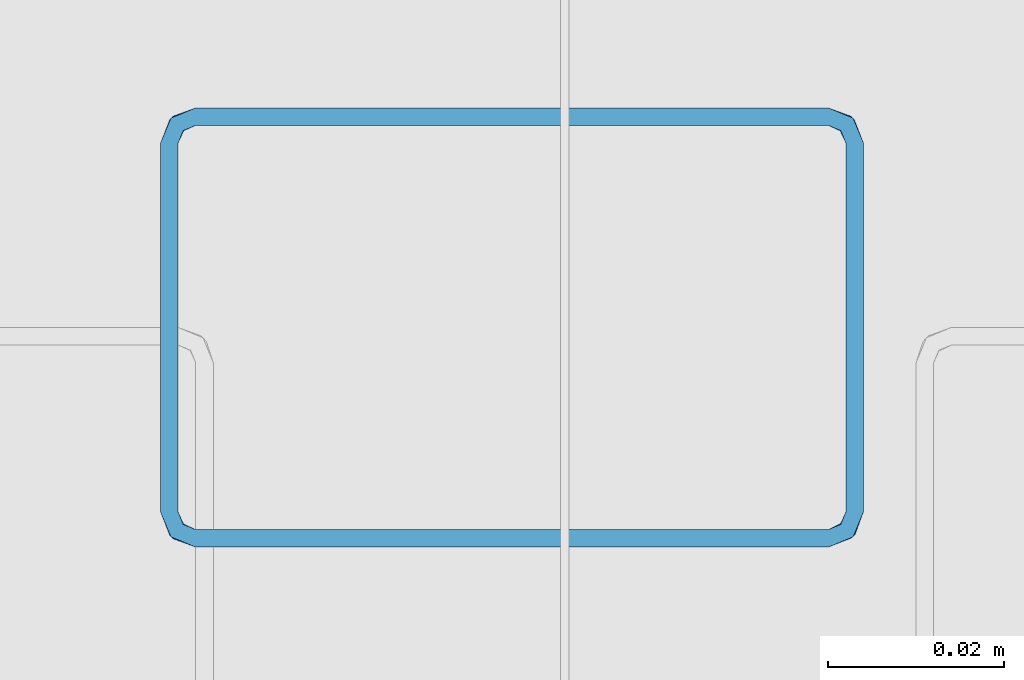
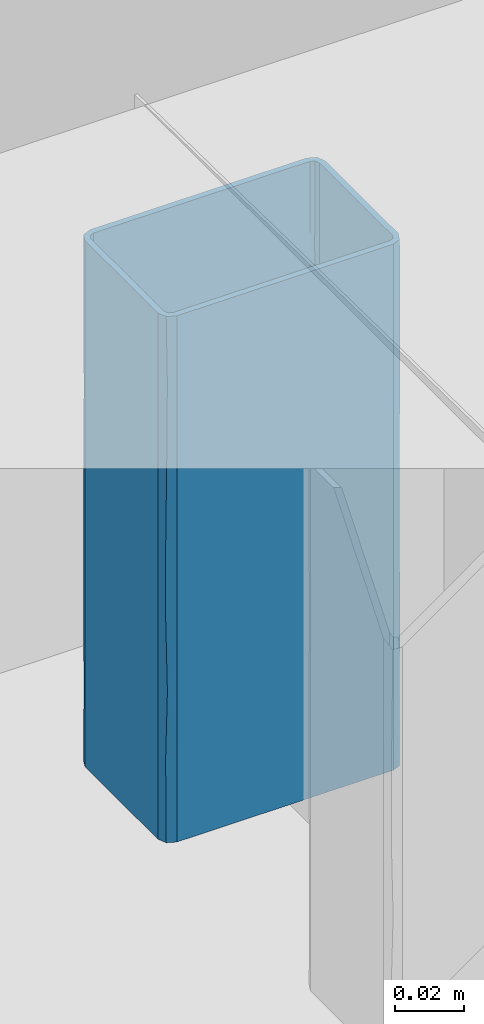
# One storey, part 154 of 186: 1 beam.
"""IFC4X3_ADD2 building model written with IfcOpenShell, lengths in millimetres."""

import ifcopenshell
import ifcopenshell.guid

model = None  # the IFC model being written
_history = None  # IfcOwnerHistory: only IFC2X3 demands one
_inside = {}  # id of a spatial element -> (the spatial element, [elements in it])
_under = {}  # id of a project, library or spatial element -> (it, [spatial elements below it])
_declared = {}  # id of a project -> (the project, [libraries it declares])
_typed = {}  # id of a type object -> (the type object, [elements of that type])
_made_of = {}  # id of a material, layer set ... -> (it, [elements and type objects made of it])


def new_model(schema):
    """Start an empty IFC model of exactly this schema.

    Asked for "IFC4X3", IfcOpenShell would pick the latest addendum, in which some entities
    have other attributes; the version numbers below select the first issue.
    IFC2X3 requires an IfcOwnerHistory on every rooted entity: one is made here for all.
    """
    global model, _history
    if schema == "IFC4X3":
        model = ifcopenshell.file(schema_version=(4, 3, 0, 0))
    else:
        model = ifcopenshell.file(schema=schema)
    _inside.clear()
    _under.clear()
    _declared.clear()
    _typed.clear()
    _made_of.clear()
    _history = None
    if model.schema == "IFC2X3":
        org = make("IfcOrganization", Name="unknown")
        user = make(
            "IfcPersonAndOrganization",
            ThePerson=make("IfcPerson", FamilyName="unknown"),
            TheOrganization=org,
        )
        app = make(
            "IfcApplication",
            ApplicationDeveloper=org,
            Version="unknown",
            ApplicationFullName="unknown",
            ApplicationIdentifier="unknown",
        )
        _history = make(
            "IfcOwnerHistory",
            OwningUser=user,
            OwningApplication=app,
            ChangeAction="ADDED",
            CreationDate=0,
        )
    return model


def make(cls, **values):
    """One entity of the class cls with the attributes given. An attribute that is None is left unset."""
    return model.create_entity(
        cls, **{name: value for name, value in values.items() if value is not None}
    )


def rooted(cls, **values):
    """An entity with a GlobalId (a new one), such as an element, a storey or a relation."""
    return make(cls, GlobalId=ifcopenshell.guid.new(), OwnerHistory=_history, **values)


def si_unit(unit_type, name, prefix=None):
    """IfcSIUnit, for example si_unit("LENGTHUNIT", "METRE", prefix="MILLI")."""
    return make("IfcSIUnit", UnitType=unit_type, Prefix=prefix, Name=name)


def assignment(units):
    """IfcUnitAssignment: the units of a project."""
    return None if units is None else make("IfcUnitAssignment", Units=units)


def point(xyz):
    """IfcCartesianPoint."""
    return None if xyz is None else make("IfcCartesianPoint", Coordinates=xyz)


def direction(xyz):
    """IfcDirection."""
    return None if xyz is None else make("IfcDirection", DirectionRatios=xyz)


def frame(location, z_axis=None, x_axis=None):
    """IfcAxis2Placement3D, a coordinate frame: its origin and axes. An axis left out is left unset."""
    return make(
        "IfcAxis2Placement3D",
        Location=point(location),
        Axis=direction(z_axis),
        RefDirection=direction(x_axis),
    )


def origin_with_axes():
    """The frame at (0, 0, 0) with the z axis (0, 0, 1) and the x axis (1, 0, 0) written out."""
    return frame((0.0, 0.0, 0.0), z_axis=(0.0, 0.0, 1.0), x_axis=(1.0, 0.0, 0.0))


def place(relative_to, where):
    """IfcLocalPlacement: puts the frame where relative to a parent placement (None: the world)."""
    return make(
        "IfcLocalPlacement", PlacementRelTo=relative_to, RelativePlacement=where
    )


def context(
    kind, dimensions, precision=None, world=None, true_north=None, identifier=None
):
    """IfcGeometricRepresentationContext, for example the 3D "Model" context."""
    return make(
        "IfcGeometricRepresentationContext",
        ContextIdentifier=identifier,
        ContextType=kind,
        CoordinateSpaceDimension=dimensions,
        Precision=precision,
        WorldCoordinateSystem=world,
        TrueNorth=true_north,
    )


def subcontext(parent, identifier, kind, view, scale=None):
    """IfcGeometricRepresentationSubContext, for example "Body" below "Model"."""
    return make(
        "IfcGeometricRepresentationSubContext",
        ContextIdentifier=identifier,
        ContextType=kind,
        ParentContext=parent,
        TargetScale=scale,
        TargetView=view,
    )


def project(units=None, contexts=None):
    """IfcProject with its units and contexts."""
    return rooted(
        "IfcProject",
        Name="project",
        RepresentationContexts=contexts,
        UnitsInContext=assignment(units),
    )


def spatial(cls, under=None, at=None, **own):
    """A site, building, storey or space (cls), placed at a placement, below another one or the project."""
    s = rooted(cls, ObjectPlacement=at, **own)
    if under is not None:
        _under.setdefault(under.id(), (under, []))[1].append(s)
    return s


def point_list(points):
    """IfcCartesianPointList2D or 3D."""
    cls = (
        "IfcCartesianPointList2D" if len(points[0]) == 2 else "IfcCartesianPointList3D"
    )
    return make(cls, CoordList=points)


def polygons(points, faces, closed=None, point_numbers=None):
    """IfcPolygonalFaceSet: a face is its outer loop, then its inner loops; points numbered from 1."""
    made = []
    for loops in faces:
        if len(loops) == 1:
            made.append(make("IfcIndexedPolygonalFace", CoordIndex=loops[0]))
        else:
            made.append(
                make(
                    "IfcIndexedPolygonalFaceWithVoids",
                    CoordIndex=loops[0],
                    InnerCoordIndices=loops[1:],
                )
            )
    return make(
        "IfcPolygonalFaceSet",
        Coordinates=point_list(points),
        Closed=closed,
        Faces=made,
        PnIndex=point_numbers,
    )


def shape(context_of_items, identifier, shape_type, items):
    """IfcShapeRepresentation: the items that make up one representation, for example the "Body"."""
    return make(
        "IfcShapeRepresentation",
        ContextOfItems=context_of_items,
        RepresentationIdentifier=identifier,
        RepresentationType=shape_type,
        Items=items,
    )


def made_of(thing, what):
    """Note that an element or type object is made of a material, layer set ...; save() writes the relation."""
    if what is not None:
        _made_of.setdefault(what.id(), (what, []))[1].append(thing)
    return thing


def element(
    cls,
    number,
    at=None,
    inside=None,
    cuts=None,
    type_object=None,
    material=None,
    context=None,
    identifier="Body",
    shape_type=None,
    held_by="IfcProductDefinitionShape",
    body=None,
    shapes=None,
    **own,
):
    """One element of the class cls, such as IfcWall. Its Tag is "e" and its number.

    at: its placement. inside: the storey or other place that contains it. cuts: it is an
    opening in that element (IfcRelVoidsElement). A single representation is given by context,
    identifier, shape_type and body (its items); several are given by shapes. held_by: the class
    of the entity that holds the representations. save() writes the other relations.
    """
    e = rooted(cls, Tag="e%d" % number, ObjectPlacement=at, **own)
    if body is not None:
        shapes = [shape(context, identifier, shape_type, body)]
    if shapes is not None:
        e.Representation = make(held_by, Representations=shapes)
    if inside is not None:
        _inside.setdefault(inside.id(), (inside, []))[1].append(e)
    if cuts is not None:
        rooted(
            "IfcRelVoidsElement", RelatingBuildingElement=cuts, RelatedOpeningElement=e
        )
    if type_object is not None:
        _typed.setdefault(type_object.id(), (type_object, []))[1].append(e)
    return made_of(e, material)


def aggregate(whole, parts):
    """IfcRelAggregates: a whole, such as a stair, and the parts it consists of."""
    return rooted("IfcRelAggregates", RelatingObject=whole, RelatedObjects=parts)


def save(model, path):
    """Write the relations noted so far, then the file.

    IfcRelAggregates (storeys below a building ...), IfcRelContainedInSpatialStructure (elements
    in a storey), IfcRelDefinesByType, IfcRelAssociatesMaterial and IfcRelDeclares: one each for
    every whole, place, type object, material and project.
    """
    for whole, parts in _under.values():
        aggregate(whole, parts)
    for where, things in _inside.values():
        rooted(
            "IfcRelContainedInSpatialStructure",
            RelatedElements=things,
            RelatingStructure=where,
        )
    for kind, things in _typed.values():
        rooted("IfcRelDefinesByType", RelatedObjects=things, RelatingType=kind)
    for what, things in _made_of.values():
        rooted("IfcRelAssociatesMaterial", RelatedObjects=things, RelatingMaterial=what)
    for by, libraries in _declared.values():
        rooted("IfcRelDeclares", RelatingContext=by, RelatedDefinitions=libraries)
    model.write(path)


model = new_model("IFC4X3_ADD2")

# Units and contexts
model_context = context("Model", 3, precision=1e-05, world=origin_with_axes(), true_north=direction((0.0, 1.0)))
body_context = subcontext(model_context, "Body", "Model", "MODEL_VIEW")
ifc_project = project(units=[si_unit("LENGTHUNIT", "METRE", prefix="MILLI"), si_unit("AREAUNIT", "SQUARE_METRE"), si_unit("VOLUMEUNIT", "CUBIC_METRE"), si_unit("PLANEANGLEUNIT", "RADIAN"), si_unit("TIMEUNIT", "SECOND"), si_unit("MASSUNIT", "GRAM")], contexts=[model_context])

# Site, building, storey
site_placement = place(None, origin_with_axes())
site = spatial("IfcSite", under=ifc_project, at=site_placement, Name="Site", CompositionType="ELEMENT")
building_placement = place(site_placement, origin_with_axes())
building = spatial("IfcBuilding", under=site, at=building_placement, Name="IFC Building Story")
storey_placement = place(building_placement, frame((0.0, 0.0, 4370.0), z_axis=(0.0, 0.0, 1.0), x_axis=(1.0, 0.0, 0.0)))
storey = spatial("IfcBuildingStorey", under=building, at=storey_placement, Name="ETAGE 10 (1)", Elevation=4370.0)

# Beam
beam_placement = place(storey_placement, frame((0.0, 0.0, -4370.0), z_axis=(0.0, 0.0, 1.0), x_axis=(1.0, 0.0, 0.0)))
element("IfcBeam", 1, at=beam_placement, inside=storey, Name="PS9", ObjectType="K50*80*2", context=body_context, shape_type="Tessellation", body=[
    polygons([(48394.18969887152, -106.000610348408, 7329.99958190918), (48396.18969887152, -106.000610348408, 7329.99958190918), (48393.60391243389, -107.4148239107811, 7329.99958190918), (48394.18969887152, -64.000610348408, 7329.99958190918), (48396.18969887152, -64.000610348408, 7329.99958190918), (48393.60391243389, -62.5863967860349, 7329.99958190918), (48395.01812599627, -61.1721832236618, 7329.99958190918), (48392.18969887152, -60.000610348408, 7329.99958190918), (48392.18969887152, -62.000610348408, 7329.99958190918), (48320.18969887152, -60.000610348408, 7329.99958190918), (48320.18969887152, -62.000610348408, 7329.99958190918), (48318.77548530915, -62.5863967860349, 7329.99958190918), (48317.36127174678, -61.1721832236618, 7329.99958190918), (48316.18969887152, -64.000610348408, 7329.99958190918), (48318.18969887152, -64.000610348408, 7329.99958190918), (48316.18969887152, -106.000610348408, 7329.99958190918), (48318.18969887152, -106.000610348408, 7329.99958190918), (48318.77548530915, -107.4148239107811, 7329.99958190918), (48317.36127174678, -108.8290374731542, 7329.99958190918), (48320.18969887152, -110.000610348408, 7329.99958190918), (48320.18969887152, -108.000610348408, 7329.99958190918), (48392.18969887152, -108.000610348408, 7329.99958190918), (48392.18969887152, -110.000610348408, 7329.99958190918), (48395.01812599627, -108.8290374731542, 7329.99958190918), (48318.18969887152, -106.000610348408, 7514.999581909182), (48316.18969887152, -106.000610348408, 7514.999581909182), (48318.77548530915, -107.4148239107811, 7514.999581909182), (48318.18969887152, -64.000610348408, 7514.999581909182), (48316.18969887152, -64.000610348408, 7514.999581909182), (48318.77548530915, -62.5863967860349, 7514.999581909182), (48317.36127174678, -61.1721832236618, 7514.999581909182), (48320.18969887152, -60.000610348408, 7514.999581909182), (48320.18969887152, -62.000610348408, 7514.999581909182), (48392.18969887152, -60.000610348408, 7514.999581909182), (48392.18969887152, -62.000610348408, 7514.999581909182), (48393.60391243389, -62.5863967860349, 7514.999581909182), (48395.01812599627, -61.1721832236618, 7514.999581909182), (48396.18969887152, -64.000610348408, 7514.999581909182), (48394.18969887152, -64.000610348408, 7514.999581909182), (48396.18969887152, -106.000610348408, 7514.999581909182), (48394.18969887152, -106.000610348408, 7514.999581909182), (48393.60391243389, -107.4148239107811, 7514.999581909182), (48395.01812599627, -108.8290374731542, 7514.999581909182), (48392.18969887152, -110.000610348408, 7514.999581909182), (48392.18969887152, -108.000610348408, 7514.999581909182), (48320.18969887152, -108.000610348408, 7514.999581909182), (48320.18969887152, -110.000610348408, 7514.999581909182), (48317.36127174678, -108.8290374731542, 7514.999581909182), (48392.18969887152, -110.000610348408, 7347.458104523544), (48392.18969887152, -110.000610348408, 7376.249581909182), (48392.18969887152, -110.000610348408, 7399.374583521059), (48392.18969887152, -110.000610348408, 7422.499581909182), (48392.18969887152, -110.000610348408, 7445.624580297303), (48392.18969887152, -110.000610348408, 7468.749581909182), (48392.18969887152, -110.000610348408, 7497.541059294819), (48320.18969887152, -110.000610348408, 7480.082535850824), (48320.18969887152, -110.000610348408, 7457.416627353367), (48320.18969887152, -110.000610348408, 7428.625150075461), (48320.18969887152, -110.000610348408, 7399.833672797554), (48320.18969887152, -110.000610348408, 7364.91662796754), (48317.50755934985, -108.9681223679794, 7468.749579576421), (48316.18969887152, -106.000610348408, 7497.54105965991), (48316.18969887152, -106.000610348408, 7347.458104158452), (48317.24136892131, -108.7038214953, 7359.346476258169), (48317.24793747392, -108.7109682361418, 7434.06207934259), (48316.18969887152, -106.000610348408, 7445.624580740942), (48317.24784257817, -108.7108652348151, 7408.867571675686), (48317.61035341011, -109.0578929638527, 7491.927046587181), (48316.18969887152, -106.000610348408, 7468.749581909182), (48317.62087706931, -109.0667405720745, 7383.292348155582), (48316.18969887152, -106.000610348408, 7422.499581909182), (48316.18969887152, -106.000610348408, 7399.374583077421), (48316.18969887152, -106.000610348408, 7376.249581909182), (48316.18969887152, -64.000610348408, 7497.54105919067), (48316.18969887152, -64.000610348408, 7468.749581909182), (48316.18969887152, -64.000610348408, 7445.624581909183), (48316.18969887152, -64.000610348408, 7422.499581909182), (48316.18969887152, -64.000610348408, 7399.374581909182), (48316.18969887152, -64.000610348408, 7376.24958190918), (48316.18969887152, -64.000610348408, 7347.458104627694), (48317.24136865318, -61.2973994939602, 7485.652677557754), (48317.61035335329, -60.9433277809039, 7353.072114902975), (48317.50755934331, -61.03309833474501, 7376.249580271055), (48320.18969887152, -60.000610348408, 7364.916627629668), (48320.18969887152, -60.000610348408, 7387.582536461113), (48317.24793749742, -61.29025243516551, 7410.937079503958), (48320.18969887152, -60.000610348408, 7480.082536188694), (48317.62087693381, -60.93448023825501, 7461.706806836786), (48317.24784267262, -61.2903553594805, 7436.131585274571), (48320.18969887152, -60.000610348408, 7445.165491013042), (48320.18969887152, -60.000610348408, 7416.374013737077), (48392.18969887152, -60.000610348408, 7480.082536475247), (48392.18969887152, -60.000610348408, 7451.291059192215), (48392.18969887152, -60.000610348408, 7422.499581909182), (48392.18969887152, -60.000610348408, 7399.374582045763), (48392.18969887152, -60.000610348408, 7376.249582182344), (48392.18969887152, -60.000610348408, 7347.458104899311), (48396.18969887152, -64.000610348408, 7364.916627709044), (48396.18969887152, -64.000610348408, 7399.833673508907), (48395.03013402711, -61.1842424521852, 7387.812080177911), (48396.18969887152, -64.000610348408, 7480.082536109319), (48395.01812587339, -61.17218310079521, 7468.749577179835), (48394.77783707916, -60.9507676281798, 7491.874578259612), (48394.84158208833, -61.0060293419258, 7363.777071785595), (48395.15720569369, -61.3184650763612, 7443.870651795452), (48395.08196542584, -61.23749721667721, 7420.819318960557), (48396.18969887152, -64.000610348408, 7457.41662691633), (48396.18969887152, -64.000610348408, 7428.62515021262), (48396.18969887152, -106.000610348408, 7480.082535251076), (48396.18969887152, -106.000610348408, 7457.416626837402), (48396.18969887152, -106.000610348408, 7428.625149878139), (48396.18969887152, -106.000610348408, 7399.833672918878), (48396.18969887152, -106.000610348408, 7364.916627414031), (48395.15721092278, -108.6827498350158, 7468.749579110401), (48394.89291002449, -108.9489402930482, 7359.346476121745), (48394.90005676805, -108.9423717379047, 7434.062078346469), (48394.8999537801, -108.9424666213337, 7408.867571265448), (48395.24698148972, -108.5799558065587, 7491.927046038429), (48395.2558291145, -108.5694321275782, 7383.292347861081), (48393.54969718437, -107.4670361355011, 7406.329640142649), (48394.18969887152, -106.000610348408, 7404.069820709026), (48393.50452049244, -107.5076750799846, 7393.984068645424), (48393.76840573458, -107.2284884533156, 7444.932419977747), (48393.66697753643, -107.3488120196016, 7434.149878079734), (48392.18969887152, -108.000610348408, 7445.624581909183), (48393.54969717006, -107.4670361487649, 7474.139560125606), (48394.18969887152, -106.000610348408, 7482.659701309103), (48394.18969887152, -106.000610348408, 7471.879740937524), (48394.18969887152, -106.000610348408, 7461.099780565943), (48393.67660218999, -107.3381896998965, 7422.218561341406), (48392.18969887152, -108.000610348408, 7422.499581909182), (48392.18969887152, -108.000610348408, 7502.654542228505), (48393.60391240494, -107.4148239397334, 7498.047100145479), (48392.18969887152, -108.000610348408, 7490.309502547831), (48393.59526935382, -107.4234144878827, 7486.231226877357), (48394.18969887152, -106.000610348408, 7502.654541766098), (48394.18969887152, -106.000610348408, 7342.344621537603), (48393.60391245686, -107.4148238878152, 7348.517141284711), (48392.18969887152, -108.000610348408, 7342.344621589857), (48394.18969887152, -106.000610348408, 7416.414860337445), (48394.18969887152, -106.000610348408, 7367.034701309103), (48393.6503323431, -107.3668277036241, 7360.862180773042), (48393.60391247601, -107.4148238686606, 7373.20722027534), (48393.66236061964, -107.3538536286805, 7455.709798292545), (48392.18969887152, -108.000610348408, 7468.749581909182), (48394.18969887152, -106.000610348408, 7379.379740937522), (48394.18969887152, -106.000610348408, 7354.689661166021), (48392.18969887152, -108.000610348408, 7367.034700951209), (48392.18969887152, -108.000610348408, 7354.689661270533), (48394.18969887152, -106.000610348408, 7493.439661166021), (48392.18969887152, -108.000610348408, 7479.529542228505), (48394.18969887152, -106.000610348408, 7439.539860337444), (48394.18969887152, -106.000610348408, 7428.759899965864), (48394.18969887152, -106.000610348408, 7450.319820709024), (48392.18969887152, -108.000610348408, 7434.062081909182), (48392.18969887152, -108.000610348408, 7411.719621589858), (48392.18969887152, -108.000610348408, 7457.18708190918), (48392.18969887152, -108.000610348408, 7400.939661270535), (48394.18969887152, -106.000610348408, 7391.724780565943), (48393.74525367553, -107.2576900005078, 7383.68828868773), (48392.18969887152, -108.000610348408, 7390.15970095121), (48392.18969887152, -108.000610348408, 7379.379740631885), (48394.18969887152, -64.000610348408, 7502.654542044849), (48394.18969887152, -64.000610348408, 7490.30950276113), (48394.18969887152, -64.000610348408, 7479.529542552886), (48394.18969887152, -64.000610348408, 7468.749582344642), (48394.18969887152, -64.000610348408, 7457.187082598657), (48394.18969887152, -64.000610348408, 7445.624582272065), (48394.18969887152, -64.000610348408, 7434.062081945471), (48394.18969887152, -64.000610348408, 7422.499582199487), (48394.18969887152, -64.000610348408, 7410.937082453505), (48394.18969887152, -64.000610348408, 7399.374582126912), (48394.18969887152, -64.000610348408, 7387.812081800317), (48394.18969887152, -64.000610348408, 7376.249582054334), (48394.18969887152, -64.000610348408, 7365.46962184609), (48394.18969887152, -64.000610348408, 7354.689661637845), (48394.18969887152, -64.000610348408, 7342.344621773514), (48393.67373824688, -62.659854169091, 7439.843330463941), (48393.71384302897, -62.7056259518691, 7428.281218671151), (48393.50445206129, -62.493485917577, 7401.638518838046), (48393.67573843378, -62.6620714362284, 7416.718330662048), (48392.18969887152, -62.000610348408, 7405.45930305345), (48392.18969887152, -62.000610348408, 7342.344621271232), (48393.60391242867, -62.5863967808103, 7346.952061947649), (48392.18969887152, -62.000610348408, 7351.559502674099), (48393.65612468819, -62.6406120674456, 7360.079640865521), (48393.67827915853, -62.6648975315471, 7475.223688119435), (48393.66134988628, -62.6462679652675, 7462.968330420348), (48392.18969887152, -62.000610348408, 7428.584304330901), (48393.64418170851, -62.6278468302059, 7371.747873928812), (48392.18969887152, -62.000610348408, 7362.339462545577), (48392.18969887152, -62.000610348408, 7502.65454254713), (48392.18969887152, -62.000610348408, 7465.619423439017), (48393.60391244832, -62.5863968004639, 7496.482021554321), (48392.18969887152, -62.000610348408, 7490.309502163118), (48392.18969887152, -62.000610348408, 7453.274383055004), (48393.71340190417, -62.7051069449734, 7451.408622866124), (48392.18969887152, -62.000610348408, 7440.929343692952), (48393.54294218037, -62.5279486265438, 7389.289362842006), (48392.18969887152, -62.000610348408, 7394.679343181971), (48392.18969887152, -62.000610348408, 7383.899383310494), (48392.18969887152, -62.000610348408, 7373.119422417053), (48392.18969887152, -62.000610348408, 7477.964462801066), (48393.45954831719, -62.455462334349, 7485.788710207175), (48392.18969887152, -62.000610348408, 7416.239263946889), (48320.18969887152, -62.000610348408, 7502.654541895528), (48320.18969887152, -62.000610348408, 7491.874581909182), (48320.18969887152, -62.000610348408, 7480.312081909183), (48320.18969887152, -62.000610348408, 7468.749581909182), (48320.18969887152, -62.000610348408, 7457.18708190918), (48320.18969887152, -62.000610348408, 7445.624581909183), (48320.18969887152, -62.000610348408, 7434.062081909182), (48320.18969887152, -62.000610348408, 7422.499581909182), (48320.18969887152, -62.000610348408, 7410.937081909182), (48320.18969887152, -62.000610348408, 7399.374581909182), (48320.18969887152, -62.000610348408, 7387.812081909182), (48320.18969887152, -62.000610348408, 7376.249581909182), (48320.18969887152, -62.000610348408, 7365.469621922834), (48320.18969887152, -62.000610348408, 7354.689660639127), (48320.18969887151, -62.000610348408, 7342.344621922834), (48318.8489427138, -62.51657095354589, 7439.843330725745), (48318.89471449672, -62.4764661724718, 7428.281218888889), (48318.68257445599, -62.68585714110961, 7401.63851911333), (48318.85115997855, -62.5145707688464, 7416.718330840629), (48318.18969887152, -64.000610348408, 7405.459304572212), (48318.90350509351, -62.4690407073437, 7485.918857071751), (48318.18969887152, -64.000610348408, 7342.344622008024), (48318.7754853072, -62.5863967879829, 7346.952061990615), (48318.18969887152, -64.000610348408, 7351.559502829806), (48318.18969887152, -64.000610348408, 7502.654541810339), (48318.82970059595, -62.53418452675, 7360.079640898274), (48318.18969887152, -64.000610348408, 7465.619423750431), (48318.82438049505, -62.5391365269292, 7474.530830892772), (48318.18969887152, -64.000610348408, 7477.964463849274), (48318.70408041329, -62.6616040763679, 7459.446902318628), (48318.81693536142, -62.54612750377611, 7371.747873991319), (48318.18969887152, -64.000610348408, 7362.339462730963), (48318.18969887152, -64.000610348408, 7490.309502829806), (48318.77548532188, -62.5863967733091, 7497.264561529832), (48318.18969887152, -64.000610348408, 7428.584303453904), (48318.18969887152, -64.000610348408, 7453.274383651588), (48318.18969887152, -64.000610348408, 7440.929343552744), (48318.71703716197, -62.64736702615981, 7389.2893630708), (48318.18969887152, -64.000610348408, 7394.679343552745), (48318.18969887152, -64.000610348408, 7383.899383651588), (48318.18969887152, -64.000610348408, 7373.119423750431), (48318.18969887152, -64.000610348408, 7416.23926447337), (48318.18969887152, -106.0006103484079, 7502.654541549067), (48318.18969887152, -106.0006103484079, 7491.874580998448), (48318.18969887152, -106.0006103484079, 7480.312080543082), (48318.18969887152, -106.0006103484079, 7468.749581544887), (48318.18969887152, -106.0006103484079, 7457.187082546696), (48318.18969887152, -106.0006103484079, 7445.62458209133), (48318.18969887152, -106.0006103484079, 7434.062081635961), (48318.18969887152, -106.0006103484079, 7422.499581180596), (48318.18969887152, -106.0006103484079, 7410.937080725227), (48318.18969887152, -106.0006103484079, 7399.374581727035), (48318.18969887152, -106.0006103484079, 7387.812082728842), (48318.18969887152, -106.0006103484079, 7376.249582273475), (48318.18969887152, -106.0006103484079, 7365.469621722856), (48318.18969887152, -106.0006103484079, 7354.689661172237), (48318.18969887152, -106.0006103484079, 7342.344620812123), (48318.70565946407, -107.3413664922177, 7439.843330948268), (48318.66555468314, -107.295594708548, 7428.28121908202), (48318.87494565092, -107.5077347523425, 7401.638519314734), (48318.70365927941, -107.3391492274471, 7416.718331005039), (48320.18969887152, -108.000610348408, 7405.459303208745), (48318.65812922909, -107.2868041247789, 7485.918857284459), (48320.18969887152, -108.000610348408, 7342.344620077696), (48318.77548530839, -107.4148239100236, 7346.952062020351), (48320.18969887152, -108.000610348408, 7351.559503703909), (48320.18969887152, -108.000610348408, 7502.654541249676), (48318.72327304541, -107.3606086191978, 7360.079640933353), (48320.18969887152, -108.000610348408, 7465.619421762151), (48318.7282250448, -107.3659287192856, 7474.530831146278), (48320.18969887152, -108.000610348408, 7477.964462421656), (48318.85069258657, -107.4862287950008, 7459.446902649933), (48318.73521602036, -107.3733738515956, 7371.747874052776), (48320.18969887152, -108.000610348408, 7362.339462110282), (48320.18969887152, -108.000610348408, 7490.309503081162), (48318.77548529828, -107.4148238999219, 7497.264561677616), (48320.18969887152, -108.000610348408, 7428.584302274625), (48320.18969887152, -108.000610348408, 7453.274383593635), (48320.18969887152, -108.000610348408, 7440.929342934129), (48318.83645553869, -107.473272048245, 7389.289363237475), (48320.18969887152, -108.000610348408, 7394.679342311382), (48320.18969887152, -108.000610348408, 7383.89938390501), (48320.18969887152, -108.000610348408, 7373.119423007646), (48320.18969887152, -108.000610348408, 7416.239264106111)], [[[1, 2, 3]], [[2, 1, 4]], [[4, 5, 2]], [[6, 5, 4]], [[7, 5, 6]], [[6, 8, 7]], [[6, 9, 8]], [[8, 9, 10]], [[11, 10, 9]], [[11, 12, 10]], [[10, 12, 13]], [[14, 13, 12]], [[14, 12, 15]], [[14, 15, 16]], [[17, 16, 15]], [[18, 16, 17]], [[16, 18, 19]], [[18, 20, 19]], [[21, 20, 18]], [[20, 21, 22]], [[3, 23, 22]], [[22, 23, 20]], [[3, 2, 24]], [[23, 3, 24]], [[25, 26, 27]], [[26, 25, 28]], [[28, 29, 26]], [[30, 29, 28]], [[31, 29, 30]], [[30, 32, 31]], [[30, 33, 32]], [[32, 33, 34]], [[35, 34, 33]], [[35, 36, 34]], [[34, 36, 37]], [[38, 37, 36]], [[38, 36, 39]], [[38, 39, 40]], [[41, 40, 39]], [[42, 40, 41]], [[40, 42, 43]], [[42, 44, 43]], [[45, 44, 42]], [[44, 45, 46]], [[27, 47, 46]], [[46, 47, 44]], [[27, 26, 48]], [[47, 27, 48]], [[55, 44, 47]], [[47, 56, 54]], [[47, 54, 55]], [[56, 57, 53]], [[56, 53, 54]], [[57, 58, 52]], [[57, 52, 53]], [[58, 59, 51]], [[58, 51, 52]], [[59, 60, 50]], [[59, 50, 51]], [[60, 20, 49]], [[60, 49, 50]], [[20, 23, 49]], [[61, 57, 56]], [[48, 26, 62]], [[63, 16, 19]], [[19, 20, 64]], [[61, 65, 57]], [[66, 65, 61]], [[67, 59, 58]], [[61, 68, 69]], [[61, 56, 68]], [[20, 60, 64]], [[67, 70, 59]], [[47, 48, 68]], [[64, 60, 70]], [[68, 62, 69]], [[58, 65, 67]], [[65, 66, 71]], [[61, 69, 66]], [[65, 71, 67]], [[57, 65, 58]], [[70, 72, 73]], [[72, 70, 67]], [[64, 73, 63]], [[60, 59, 70]], [[47, 68, 56]], [[62, 68, 48]], [[67, 71, 72]], [[73, 64, 70]], [[19, 64, 63]], [[62, 26, 29]], [[62, 29, 74]], [[74, 75, 69]], [[74, 69, 62]], [[75, 76, 66]], [[75, 66, 69]], [[76, 77, 71]], [[76, 71, 66]], [[77, 78, 72]], [[77, 72, 71]], [[78, 79, 73]], [[78, 73, 72]], [[79, 80, 63]], [[79, 63, 73]], [[80, 14, 16]], [[80, 16, 63]], [[31, 32, 81]], [[82, 79, 83]], [[84, 83, 85]], [[82, 80, 79]], [[83, 86, 85]], [[13, 14, 80]], [[74, 29, 31]], [[78, 86, 83]], [[81, 32, 87]], [[87, 88, 81]], [[89, 90, 91]], [[89, 88, 90]], [[10, 13, 82]], [[83, 84, 82]], [[91, 86, 89]], [[86, 78, 77]], [[83, 79, 78]], [[86, 77, 89]], [[85, 86, 91]], [[88, 76, 75]], [[76, 88, 89]], [[81, 75, 74]], [[87, 90, 88]], [[10, 82, 84]], [[80, 82, 13]], [[89, 77, 76]], [[75, 81, 88]], [[31, 81, 74]], [[87, 32, 34]], [[87, 34, 92]], [[92, 93, 90]], [[92, 90, 87]], [[93, 94, 91]], [[93, 91, 90]], [[95, 96, 85]], [[85, 91, 94]], [[85, 94, 95]], [[96, 84, 85]], [[97, 8, 10]], [[97, 10, 84]], [[84, 96, 97]], [[98, 5, 7]], [[99, 98, 100]], [[101, 102, 103]], [[7, 97, 104]], [[37, 103, 34]], [[94, 105, 106]], [[93, 102, 105]], [[96, 100, 104]], [[105, 102, 107]], [[38, 101, 103]], [[100, 106, 99]], [[7, 8, 97]], [[101, 107, 102]], [[105, 94, 93]], [[103, 102, 92]], [[93, 92, 102]], [[107, 108, 105]], [[105, 108, 106]], [[34, 103, 92]], [[103, 37, 38]], [[108, 99, 106]], [[96, 95, 100]], [[100, 95, 106]], [[95, 94, 106]], [[104, 100, 98]], [[7, 104, 98]], [[97, 96, 104]], [[101, 38, 40]], [[101, 40, 109]], [[109, 110, 107]], [[109, 107, 101]], [[110, 111, 108]], [[110, 108, 107]], [[111, 112, 99]], [[111, 99, 108]], [[112, 113, 98]], [[112, 98, 99]], [[113, 2, 5]], [[113, 5, 98]], [[114, 110, 109]], [[43, 44, 55]], [[49, 23, 24]], [[24, 2, 115]], [[114, 116, 110]], [[53, 116, 114]], [[117, 112, 111]], [[114, 118, 54]], [[114, 109, 118]], [[2, 113, 115]], [[117, 119, 112]], [[40, 43, 118]], [[115, 113, 119]], [[118, 55, 54]], [[111, 116, 117]], [[116, 53, 52]], [[114, 54, 53]], [[116, 52, 117]], [[110, 116, 111]], [[119, 51, 50]], [[51, 119, 117]], [[115, 50, 49]], [[113, 112, 119]], [[40, 118, 109]], [[55, 118, 43]], [[117, 52, 51]], [[50, 115, 119]], [[24, 115, 49]], [[120, 121, 122]], [[123, 124, 125]], [[126, 127, 128, 129]], [[124, 130, 131]], [[132, 42, 133]], [[134, 133, 135]], [[42, 41, 136]], [[137, 1, 3]], [[138, 3, 139]], [[120, 130, 140]], [[141, 142, 143]], [[144, 145, 126]], [[141, 143, 146]], [[137, 138, 147]], [[148, 142, 149]], [[42, 136, 133]], [[150, 133, 136]], [[3, 22, 139]], [[132, 45, 42]], [[3, 138, 137]], [[133, 134, 132]], [[150, 127, 135]], [[135, 126, 151]], [[150, 135, 133]], [[151, 126, 145]], [[152, 153, 124]], [[129, 154, 144]], [[124, 131, 155, 125]], [[130, 120, 156]], [[144, 154, 123]], [[157, 145, 144, 125]], [[129, 144, 126]], [[152, 123, 154]], [[158, 120, 122]], [[142, 138, 149]], [[142, 141, 147]], [[149, 138, 139]], [[159, 122, 121]], [[153, 130, 124]], [[159, 160, 122]], [[156, 120, 158]], [[121, 120, 140]], [[143, 160, 146]], [[161, 158, 122]], [[143, 162, 160]], [[148, 162, 143]], [[143, 142, 148]], [[138, 142, 147]], [[144, 123, 125]], [[124, 123, 152]], [[134, 135, 151]], [[135, 127, 126]], [[146, 160, 159]], [[162, 161, 160]], [[161, 122, 160]], [[156, 131, 130]], [[140, 130, 153]], [[136, 41, 39]], [[136, 39, 163]], [[163, 164, 150]], [[163, 150, 136]], [[164, 165, 127]], [[164, 127, 150]], [[165, 166, 128]], [[165, 128, 127]], [[166, 167, 129]], [[166, 129, 128]], [[167, 168, 154]], [[167, 154, 129]], [[168, 169, 152]], [[168, 152, 154]], [[169, 153, 152]], [[170, 171, 140]], [[140, 153, 169]], [[140, 169, 170]], [[171, 172, 121]], [[171, 121, 140]], [[172, 173, 159]], [[172, 159, 121]], [[173, 174, 146]], [[173, 146, 159]], [[174, 175, 141]], [[174, 141, 146]], [[175, 176, 147]], [[175, 147, 141]], [[176, 177, 137]], [[176, 137, 147]], [[177, 4, 1]], [[177, 1, 137]], [[178, 179, 169]], [[180, 181, 182]], [[163, 39, 36]], [[6, 4, 177]], [[183, 6, 184, 185]], [[176, 175, 186]], [[187, 188, 166]], [[166, 188, 167]], [[189, 179, 178]], [[190, 186, 175]], [[186, 190, 191]], [[183, 9, 6]], [[35, 192, 36]], [[187, 193, 188]], [[163, 194, 164]], [[195, 194, 192]], [[185, 186, 191]], [[36, 194, 163]], [[196, 197, 188]], [[169, 168, 178]], [[6, 177, 176, 184]], [[198, 189, 178]], [[186, 185, 184]], [[199, 200, 201]], [[176, 186, 184]], [[202, 191, 190, 201]], [[36, 192, 194]], [[190, 199, 201]], [[179, 181, 170]], [[197, 196, 198]], [[178, 168, 197]], [[193, 196, 188]], [[197, 167, 188]], [[187, 203, 193]], [[195, 204, 194]], [[165, 164, 204]], [[180, 199, 172]], [[172, 199, 174, 173]], [[199, 190, 174]], [[180, 200, 199]], [[205, 182, 181, 189]], [[171, 181, 180]], [[204, 195, 203]], [[187, 165, 204]], [[170, 181, 171]], [[180, 172, 171]], [[169, 179, 170]], [[181, 179, 189]], [[167, 197, 168]], [[198, 178, 197]], [[182, 200, 180]], [[187, 166, 165]], [[194, 204, 164]], [[187, 204, 203]], [[174, 190, 175]], [[192, 35, 33]], [[192, 33, 206]], [[206, 207, 195]], [[206, 195, 192]], [[207, 208, 203]], [[207, 203, 195]], [[208, 209, 193]], [[208, 193, 203]], [[209, 210, 196]], [[209, 196, 193]], [[210, 211, 198]], [[210, 198, 196]], [[211, 212, 189]], [[211, 189, 198]], [[213, 214, 205]], [[213, 205, 189]], [[189, 212, 213]], [[214, 182, 205]], [[214, 215, 200]], [[214, 200, 182]], [[215, 216, 201]], [[215, 201, 200]], [[216, 217, 202]], [[216, 202, 201]], [[217, 218, 191]], [[217, 191, 202]], [[218, 219, 185]], [[218, 185, 191]], [[219, 220, 183]], [[219, 183, 185]], [[220, 11, 9]], [[220, 9, 183]], [[221, 222, 212]], [[223, 224, 225]], [[208, 207, 226]], [[227, 15, 12]], [[227, 12, 228]], [[228, 229, 227]], [[30, 28, 230]], [[219, 218, 231]], [[232, 233, 234]], [[233, 235, 209]], [[208, 233, 209]], [[236, 231, 218]], [[231, 236, 237]], [[238, 226, 239]], [[206, 239, 207]], [[208, 226, 233]], [[206, 33, 30]], [[12, 11, 220, 228]], [[229, 231, 237]], [[30, 230, 239]], [[30, 239, 206]], [[239, 230, 238]], [[240, 222, 221]], [[221, 235, 241]], [[212, 211, 221]], [[242, 240, 221, 241]], [[228, 220, 219]], [[231, 229, 228]], [[243, 244, 245]], [[219, 231, 228]], [[246, 237, 236, 245]], [[241, 235, 232]], [[238, 234, 226]], [[222, 224, 213]], [[210, 209, 235, 211]], [[235, 221, 211]], [[236, 243, 245]], [[223, 243, 215]], [[215, 243, 217, 216]], [[243, 236, 217]], [[223, 244, 243]], [[247, 225, 224, 240]], [[214, 224, 223]], [[213, 224, 214]], [[223, 215, 214]], [[232, 235, 233]], [[212, 222, 213]], [[224, 222, 240]], [[234, 233, 226]], [[239, 226, 207]], [[225, 244, 223]], [[217, 236, 218]], [[230, 28, 25]], [[230, 25, 248]], [[248, 249, 238]], [[248, 238, 230]], [[249, 250, 234]], [[249, 234, 238]], [[250, 251, 232]], [[250, 232, 234]], [[251, 252, 241]], [[251, 241, 232]], [[252, 253, 242]], [[252, 242, 241]], [[253, 254, 240]], [[253, 240, 242]], [[255, 256, 247]], [[255, 247, 240]], [[240, 254, 255]], [[256, 225, 247]], [[256, 257, 244]], [[256, 244, 225]], [[257, 258, 245]], [[257, 245, 244]], [[258, 259, 246]], [[258, 246, 245]], [[259, 260, 237]], [[259, 237, 246]], [[260, 261, 229]], [[260, 229, 237]], [[261, 262, 227]], [[261, 227, 229]], [[262, 17, 15]], [[262, 15, 227]], [[263, 264, 254]], [[265, 266, 267]], [[250, 249, 268]], [[269, 21, 18]], [[269, 18, 270]], [[270, 271, 269]], [[27, 46, 272]], [[261, 260, 273]], [[274, 275, 276]], [[275, 277, 251]], [[250, 275, 251]], [[278, 273, 260]], [[273, 278, 279]], [[280, 268, 281]], [[248, 27, 281, 249]], [[250, 268, 275]], [[248, 25, 27]], [[262, 261, 270]], [[270, 18, 17]], [[270, 17, 262]], [[271, 273, 279]], [[27, 272, 281]], [[281, 272, 280]], [[282, 264, 263]], [[263, 277, 283]], [[254, 253, 263]], [[284, 282, 263, 283]], [[273, 271, 270]], [[285, 286, 287]], [[261, 273, 270]], [[288, 279, 278, 287]], [[283, 277, 274]], [[280, 276, 268]], [[264, 266, 255]], [[252, 251, 277, 253]], [[277, 263, 253]], [[278, 285, 287]], [[265, 285, 257]], [[257, 285, 259, 258]], [[285, 278, 259]], [[265, 286, 285]], [[289, 267, 266, 282]], [[256, 266, 265]], [[255, 266, 256]], [[265, 257, 256]], [[274, 277, 275]], [[254, 264, 255]], [[266, 264, 282]], [[276, 275, 268]], [[281, 268, 249]], [[267, 286, 265]], [[259, 278, 260]], [[272, 46, 45]], [[272, 45, 132]], [[132, 134, 280]], [[132, 280, 272]], [[134, 151, 276]], [[134, 276, 280]], [[151, 145, 274]], [[151, 274, 276]], [[145, 157, 283]], [[145, 283, 274]], [[157, 125, 284]], [[157, 284, 283]], [[125, 155, 282]], [[125, 282, 284]], [[131, 156, 289]], [[131, 289, 282]], [[282, 155, 131]], [[156, 158, 267]], [[156, 267, 289]], [[158, 161, 286]], [[158, 286, 267]], [[161, 162, 287]], [[161, 287, 286]], [[162, 148, 288]], [[162, 288, 287]], [[148, 279, 288]], [[148, 149, 271]], [[148, 271, 279]], [[149, 139, 269]], [[149, 269, 271]], [[139, 22, 21]], [[139, 21, 269]]]),
])

save(model, "model.ifc")
